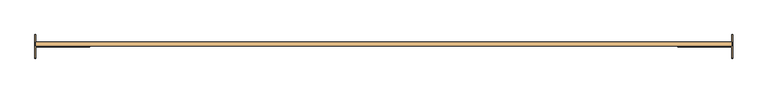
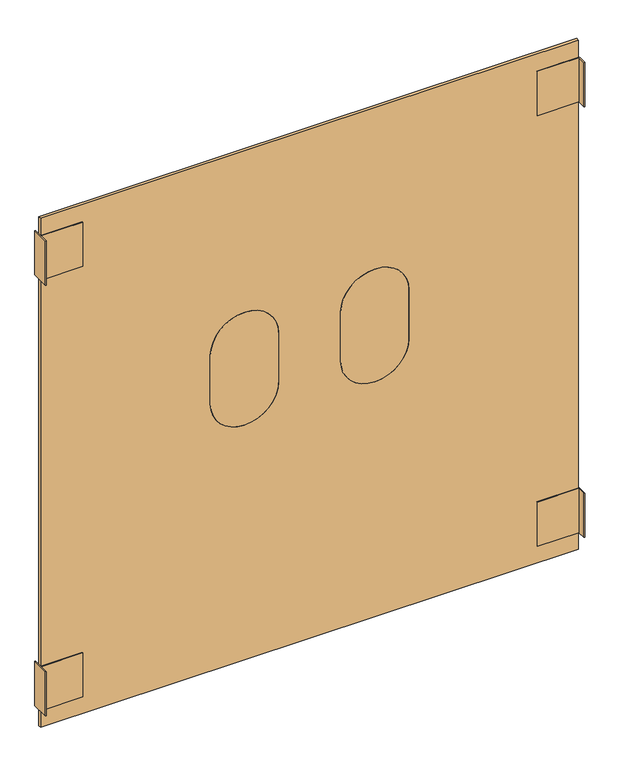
"""IFC4 building model written with IfcOpenShell, lengths in millimetres: door geometry, DO_WPB_Stricker hygienic swing door_BMP : Strick hygienic swing door."""

from ifc_helpers import new_model, si_unit, point, frame, frame_2d, origin, place, context, project, spatial, polyline, circle_curve, trimmed, segment, composite_curve, outline, extrude, source, transform, mapped, element, save


def door_081cf91a(model_context):
    return source(origin(), model_context, "Body", "SweptSolid", [
        extrude(outline(polyline([(1304.0, 0.0), (1300.0, 0.0), (1300.0, 42.0), (1100.0, 42.0), (1100.0, 46.0), (1300.0, 46.0), (1300.0, 88.0), (1304.0, 88.0), (1304.0, 0.0)])), frame((0.0, 0.0, 87.5), z_axis=(0.0, 0.0, 1.0), x_axis=(1.0, 0.0, 0.0)), (0.0, 0.0, 1.0), 225.0),
        extrude(outline(polyline([(1304.0, 0.0), (1300.0, 0.0), (1300.0, 42.0), (1100.0, 42.0), (1100.0, 46.0), (1300.0, 46.0), (1300.0, 88.0), (1304.0, 88.0), (1304.0, 0.0)])), frame((0.0, 0.0, 2287.5), z_axis=(0.0, 0.0, 1.0), x_axis=(1.0, 0.0, 0.0)), (0.0, 0.0, 1.0), 225.0),
        extrude(outline(polyline([(-1304.0, 0.0), (-1304.0, 88.0), (-1300.0, 88.0), (-1300.0, 46.0), (-1100.0, 46.0), (-1100.0, 42.0), (-1300.0, 42.0), (-1300.0, 0.0), (-1304.0, 0.0)])), frame((0.0, 0.0, 2287.5), z_axis=(0.0, 0.0, 1.0), x_axis=(1.0, 0.0, 0.0)), (0.0, 0.0, 1.0), 225.0),
        extrude(outline(polyline([(-1304.0, 0.0), (-1304.0, 88.0), (-1300.0, 88.0), (-1300.0, 46.0), (-1100.0, 46.0), (-1100.0, 42.0), (-1300.0, 42.0), (-1300.0, 0.0), (-1304.0, 0.0)])), frame((0.0, 0.0, 87.5), z_axis=(0.0, 0.0, 1.0), x_axis=(1.0, 0.0, 0.0)), (0.0, 0.0, 1.0), 225.0),
        extrude(outline(composite_curve([segment(trimmed(circle_curve(frame_2d((1363.0, 317.0)), 163.0), [point((1200.0, 317.0))], [point((1363.0, 480.0))], False, "CARTESIAN"), True, "CONTINUOUS"), segment(polyline([(1363.0, 480.0), (1612.0, 480.0)]), True, "CONTINUOUS"), segment(trimmed(circle_curve(frame_2d((1612.0, 317.0)), 163.0), [point((1612.0, 480.0))], [point((1775.0, 317.0))], False, "CARTESIAN"), True, "CONTINUOUS"), segment(polyline([(1775.0, 317.0), (1775.0, 313.0)]), True, "CONTINUOUS"), segment(trimmed(circle_curve(frame_2d((1612.0, 313.0)), 163.0), [point((1775.0, 313.0))], [point((1612.0, 150.0))], False, "CARTESIAN"), True, "CONTINUOUS"), segment(polyline([(1612.0, 150.0), (1363.0, 150.0)]), True, "CONTINUOUS"), segment(trimmed(circle_curve(frame_2d((1363.0, 313.0)), 163.0), [point((1363.0, 150.0))], [point((1200.0, 313.0))], False, "CARTESIAN"), True, "CONTINUOUS"), segment(polyline([(1200.0, 313.0), (1200.0, 317.0)]), True, "CONTINUOUS")], self_intersect=False)), frame((0.0, 46.0, 0.0), z_axis=(0.0, 1.0, 0.0), x_axis=(0.0, 0.0, 1.0)), (0.0, 0.0, 1.0), 15.0),
        extrude(outline(composite_curve([segment(trimmed(circle_curve(frame_2d((1363.0, -313.0)), 163.0), [point((1200.0, -313.0))], [point((1363.0, -150.0))], False, "CARTESIAN"), True, "CONTINUOUS"), segment(polyline([(1363.0, -150.0), (1612.0, -150.0)]), True, "CONTINUOUS"), segment(trimmed(circle_curve(frame_2d((1612.0, -313.0)), 163.0), [point((1612.0, -150.0))], [point((1775.0, -313.0))], False, "CARTESIAN"), True, "CONTINUOUS"), segment(polyline([(1775.0, -313.0), (1775.0, -317.0)]), True, "CONTINUOUS"), segment(trimmed(circle_curve(frame_2d((1612.0, -317.0)), 163.0), [point((1775.0, -317.0))], [point((1612.0, -480.0))], False, "CARTESIAN"), True, "CONTINUOUS"), segment(polyline([(1612.0, -480.0), (1363.0, -480.0)]), True, "CONTINUOUS"), segment(trimmed(circle_curve(frame_2d((1363.0, -317.0)), 163.0), [point((1363.0, -480.0))], [point((1200.0, -317.0))], False, "CARTESIAN"), True, "CONTINUOUS"), segment(polyline([(1200.0, -317.0), (1200.0, -313.0)]), True, "CONTINUOUS")], self_intersect=False)), frame((0.0, 46.0, 0.0), z_axis=(0.0, 1.0, 0.0), x_axis=(0.0, 0.0, 1.0)), (0.0, 0.0, 1.0), 15.0),
        extrude(outline(polyline([(0.0, -1300.0), (0.0, 1300.0), (2600.0, 1300.0), (2600.0, -1300.0), (0.0, -1300.0)]), holes=[composite_curve([segment(trimmed(circle_curve(frame_2d((1363.0, -313.0)), 163.0), [point((1363.0, -150.0))], [point((1200.0, -313.0))], True, "CARTESIAN"), True, "CONTINUOUS"), segment(polyline([(1200.0, -313.0), (1200.0, -317.0)]), True, "CONTINUOUS"), segment(trimmed(circle_curve(frame_2d((1363.0, -317.0)), 163.0), [point((1200.0, -317.0))], [point((1363.0, -480.0))], True, "CARTESIAN"), True, "CONTINUOUS"), segment(polyline([(1363.0, -480.0), (1612.0, -480.0)]), True, "CONTINUOUS"), segment(trimmed(circle_curve(frame_2d((1612.0, -317.0)), 163.0), [point((1612.0, -480.0))], [point((1775.0, -317.0))], True, "CARTESIAN"), True, "CONTINUOUS"), segment(polyline([(1775.0, -317.0), (1775.0, -313.0)]), True, "CONTINUOUS"), segment(trimmed(circle_curve(frame_2d((1612.0, -313.0)), 163.0), [point((1775.0, -313.0))], [point((1612.0, -150.0))], True, "CARTESIAN"), True, "CONTINUOUS"), segment(polyline([(1612.0, -150.0), (1363.0, -150.0)]), True, "CONTINUOUS")], self_intersect=False), composite_curve([segment(trimmed(circle_curve(frame_2d((1363.0, 317.0)), 163.0), [point((1363.0, 480.0))], [point((1200.0, 317.0))], True, "CARTESIAN"), True, "CONTINUOUS"), segment(polyline([(1200.0, 317.0), (1200.0, 313.0)]), True, "CONTINUOUS"), segment(trimmed(circle_curve(frame_2d((1363.0, 313.0)), 163.0), [point((1200.0, 313.0))], [point((1363.0, 150.0))], True, "CARTESIAN"), True, "CONTINUOUS"), segment(polyline([(1363.0, 150.0), (1612.0, 150.0)]), True, "CONTINUOUS"), segment(trimmed(circle_curve(frame_2d((1612.0, 313.0)), 163.0), [point((1612.0, 150.0))], [point((1775.0, 313.0))], True, "CARTESIAN"), True, "CONTINUOUS"), segment(polyline([(1775.0, 313.0), (1775.0, 317.0)]), True, "CONTINUOUS"), segment(trimmed(circle_curve(frame_2d((1612.0, 317.0)), 163.0), [point((1775.0, 317.0))], [point((1612.0, 480.0))], True, "CARTESIAN"), True, "CONTINUOUS"), segment(polyline([(1612.0, 480.0), (1363.0, 480.0)]), True, "CONTINUOUS")], self_intersect=False)]), frame((0.0, 46.0, 0.0), z_axis=(0.0, 1.0, 0.0), x_axis=(0.0, 0.0, 1.0)), (0.0, 0.0, 1.0), 15.0),
    ])


if __name__ == "__main__":
    model = new_model("IFC4")
    model_context = context("Model", 3, world=origin())
    ifc_project = project(units=[si_unit("LENGTHUNIT", "METRE", prefix="MILLI")], contexts=[model_context])
    site = spatial("IfcSite", under=ifc_project)
    building = spatial("IfcBuilding", under=site)
    placement = place(None, origin())
    door_shape = door_081cf91a(model_context)
    element("IfcDoor", 1, ObjectType="DO_WPB_Stricker hygienic swing door_BMP : Strick hygienic swing door", at=placement, inside=building, context=model_context, shape_type="MappedRepresentation", body=[
        mapped(door_shape, transform((0.0, 0.0, 0.0), x_axis=(1.0, 0.0, 0.0), y_axis=(0.0, 1.0, 0.0), z_axis=(0.0, 0.0, 1.0))),
    ])
    save(model, "model.ifc")
